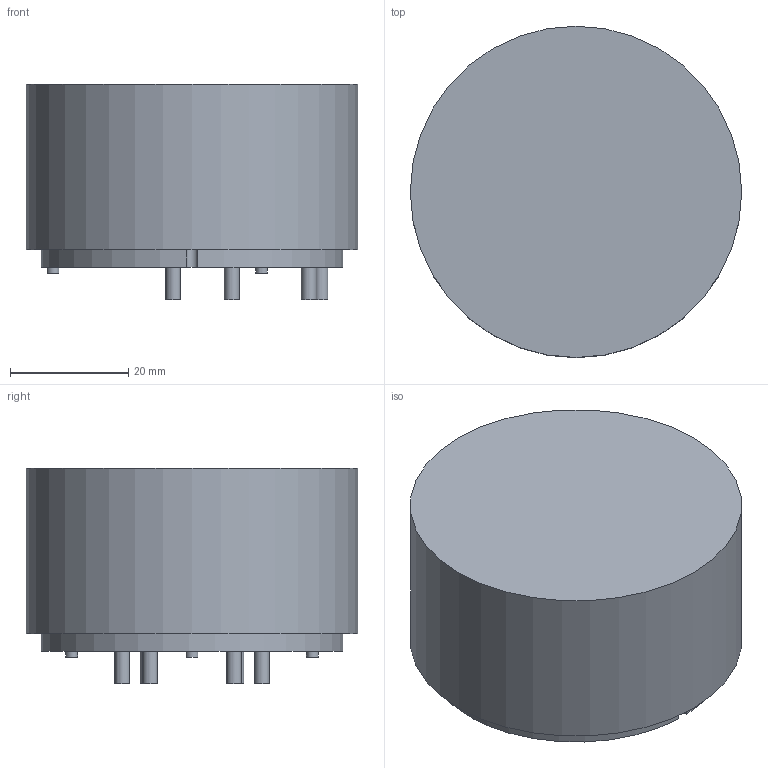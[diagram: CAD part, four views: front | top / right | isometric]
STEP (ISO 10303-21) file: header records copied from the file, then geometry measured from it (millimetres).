
FILE_DESCRIPTION(/* description */ (''),/* implementation_level */ '2;1');
FILE_NAME(/* name */ 'F:\Done\2016\产品3D模拟 新型号\修改针径\新建文件夹\6123-X263\6123-X263 3D Model.stp',/* time_stamp */ '2016-07-12T11:59:11+08:00',/* author */ ('CN000562'),/* organization */ (''),/* preprocessor_version */ 'ST-DEVELOPER v16.5',/* originating_system */ 'Autodesk Inventor 2017',/* authorisation */ '');
FILE_SCHEMA (('AUTOMOTIVE_DESIGN { 1 0 10303 214 3 1 1 }'));
Length unit declared in the file: millimetre
Products named in the file (1): 6123-X316
Bounding box: 56 x 56 x 36.5 mm (x, y, z)
Volume: 75311.1 mm3; surface area: 10708.1 mm2
Topology: 1 solids, 1 shells, 30 faces, 46 edges, 30 vertices
Faces by surface type: cylinder 15, plane 15
Full cylindrical faces by diameter (mm): 2 x3, 2.5 x8, 56 x1
Entity records: 654 total; most frequent: DIRECTION 126, CARTESIAN_POINT 95, ORIENTED_EDGE 68, AXIS2_PLACEMENT_3D 61, EDGE_LOOP 54, EDGE_CURVE 34, FACE_OUTER_BOUND 30, CIRCLE 30
